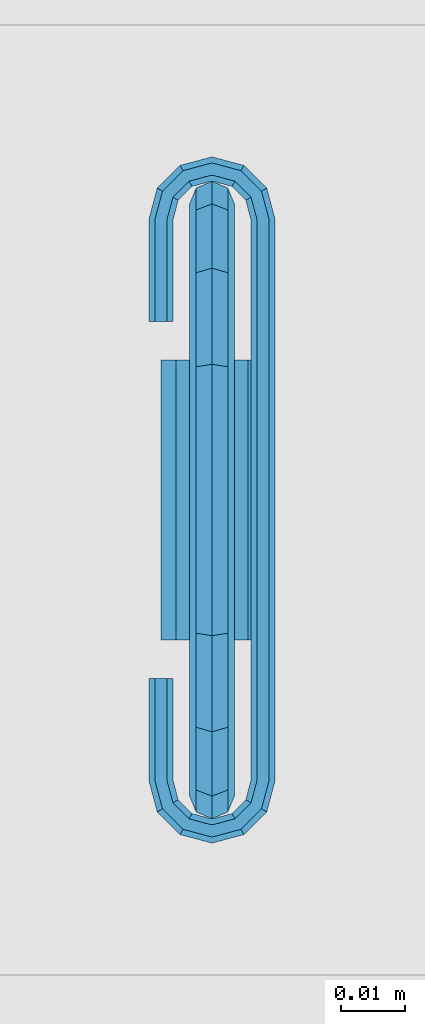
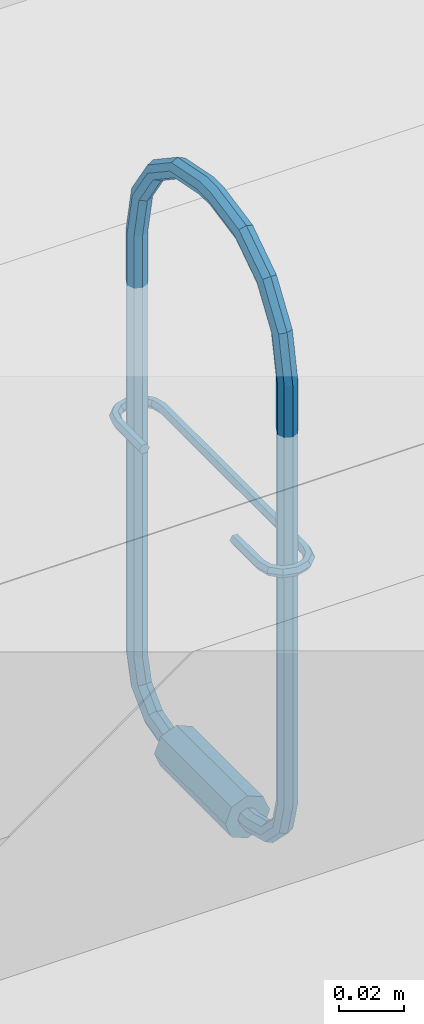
# One storey, part 173 of 230: 1 beam.
"""IFC4X3_ADD2 building model written with IfcOpenShell, lengths in millimetres."""

from ifc_helpers import new_model, si_unit, direction, origin_with_axes, place, context, subcontext, project, spatial, triangles, element, save


model = new_model("IFC4X3_ADD2")

# Units and contexts
model_context = context("Model", 3, precision=1e-05, world=origin_with_axes(), true_north=direction((0.0, 1.0)))
body_context = subcontext(model_context, "Body", "Model", "MODEL_VIEW")
ifc_project = project(units=[si_unit("LENGTHUNIT", "METRE", prefix="MILLI"), si_unit("AREAUNIT", "SQUARE_METRE"), si_unit("VOLUMEUNIT", "CUBIC_METRE"), si_unit("PLANEANGLEUNIT", "RADIAN"), si_unit("TIMEUNIT", "SECOND"), si_unit("MASSUNIT", "GRAM")], contexts=[model_context])

# Site, building, storey
site_placement = place(None, origin_with_axes())
site = spatial("IfcSite", under=ifc_project, at=site_placement, Name="Site", CompositionType="ELEMENT")
building_placement = place(site_placement, origin_with_axes())
building = spatial("IfcBuilding", under=site, at=building_placement, Name="IFC Building Story")
storey_placement = place(building_placement, origin_with_axes())
storey = spatial("IfcBuildingStorey", under=building, at=storey_placement, Name="ETAGE 00 (0)", Elevation=0.0)

# Beam
beam_placement = place(storey_placement, origin_with_axes())
element("IfcBeam", 1, at=beam_placement, inside=storey, Name="LU2", ObjectType="D7", context=body_context, shape_type="Tessellation", body=[
    triangles([(40583.66235351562, -1008.499997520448, 4036.025157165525), (40583.66235351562, -1012.00000190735, 4036.025157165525), (40581.1880859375, -1008.499997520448, 4034.999929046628), (40581.1880859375, -1012.00000190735, 4034.999929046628), (40584.69019775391, -1008.499997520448, 4038.500006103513), (40584.69019775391, -1012.00000190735, 4038.500006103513), (40583.66235351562, -1012.00000190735, 4040.974855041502), (40583.66235351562, -1008.499997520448, 4040.974855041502), (40581.1880859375, -1012.00000190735, 4042.000083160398), (40581.1880859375, -1008.499997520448, 4042.000083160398), (40578.71381835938, -1012.00000190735, 4040.974855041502), (40578.71381835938, -1008.499997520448, 4040.974855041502), (40577.690625, -1012.00000190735, 4038.500006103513), (40577.690625, -1008.499997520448, 4038.500006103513), (40578.71381835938, -1008.499997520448, 4036.025157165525), (40578.71381835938, -1012.00000190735, 4036.025157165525), (40581.1880859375, -996.2499458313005, 4038.282286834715), (40578.71381835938, -996.7625598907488, 4039.170023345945), (40581.1880859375, -987.282324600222, 4047.250053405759), (40578.71381835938, -988.1701337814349, 4047.762522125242), (40583.66235351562, -988.1701337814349, 4047.762522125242), (40583.66235351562, -996.7625598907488, 4039.170023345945), (40584.69019775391, -990.3134622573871, 4048.999946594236), (40584.69019775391, -997.9999843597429, 4041.313497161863), (40583.66235351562, -999.237408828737, 4043.456680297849), (40583.66235351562, -992.4567180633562, 4050.237371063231), (40581.1880859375, -999.7499502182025, 4044.34441680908), (40581.1880859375, -993.3445272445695, 4050.750130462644), (40578.71381835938, -992.4567180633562, 4050.237371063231), (40578.71381835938, -999.237408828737, 4043.456680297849), (40577.690625, -990.3134622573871, 4048.999946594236), (40577.690625, -997.9999843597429, 4041.313497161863), (40578.71381835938, -985.025122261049, 4059.499887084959), (40577.690625, -987.499971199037, 4059.499887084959), (40581.1880859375, -983.9999668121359, 4059.499887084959), (40583.66235351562, -985.025122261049, 4059.499887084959), (40584.69019775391, -987.499971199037, 4059.499887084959), (40583.66235351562, -989.9748201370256, 4059.499887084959), (40581.1880859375, -990.9999755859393, 4059.499887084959), (40578.71381835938, -989.9748201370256, 4059.499887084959), (40578.71381835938, -989.9748201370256, 4218.50006561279), (40577.690625, -987.499971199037, 4218.50006561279), (40578.71381835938, -993.0596609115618, 4234.008421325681), (40577.690625, -990.7731725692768, 4234.955456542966), (40578.71381835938, -1001.844371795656, 4247.155583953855), (40577.690625, -1000.094405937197, 4248.905477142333), (40578.71381835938, -998.3443674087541, 4250.65566101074), (40578.71381835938, -988.4866842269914, 4235.902491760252), (40581.1880859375, -997.6194843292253, 4251.38032608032), (40581.1880859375, -987.5395763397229, 4236.294909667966), (40583.66235351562, -998.3443674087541, 4250.65566101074), (40583.66235351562, -988.4866842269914, 4235.902491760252), (40584.69019775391, -1000.094405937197, 4248.905477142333), (40584.69019775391, -990.7731725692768, 4234.955456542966), (40583.66235351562, -993.0596609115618, 4234.008421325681), (40583.66235351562, -1001.844371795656, 4247.155583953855), (40581.1880859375, -994.0067687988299, 4233.616003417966), (40581.1880859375, -1002.569254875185, 4246.430628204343), (40581.1880859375, -1015.383952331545, 4254.993186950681), (40578.71381835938, -1014.991679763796, 4255.940222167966), (40577.690625, -1014.044571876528, 4258.226710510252), (40578.71381835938, -1013.097536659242, 4260.513198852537), (40581.1880859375, -1012.705191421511, 4261.460524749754), (40583.66235351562, -1013.097536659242, 4260.513198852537), (40584.69019775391, -1014.044571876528, 4258.226710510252), (40583.66235351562, -1014.991679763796, 4255.940222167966), (40583.66235351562, -1030.499962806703, 4259.025208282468), (40581.1880859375, -1030.499962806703, 4257.999980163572), (40578.71381835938, -1030.499962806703, 4259.025208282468), (40577.690625, -1030.499962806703, 4261.500057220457), (40578.71381835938, -1030.499962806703, 4263.974906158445), (40581.1880859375, -1030.499962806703, 4265.000134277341), (40583.66235351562, -1030.499962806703, 4263.974906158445), (40584.69019775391, -1030.499962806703, 4261.500057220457), (40584.69019775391, -1037.499971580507, 4261.500057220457), (40583.66235351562, -1037.499971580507, 4259.025208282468), (40584.69019775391, -1053.955362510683, 4258.226710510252), (40583.66235351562, -1053.008254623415, 4255.940222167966), (40584.69019775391, -1067.905601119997, 4248.905477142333), (40583.66235351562, -1066.155562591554, 4247.155583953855), (40581.1880859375, -1052.615982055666, 4254.993186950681), (40581.1880859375, -1065.430679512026, 4246.430628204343), (40578.71381835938, -1066.155562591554, 4247.155583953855), (40578.71381835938, -1053.008254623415, 4255.940222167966), (40577.690625, -1067.905601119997, 4248.905477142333), (40577.690625, -1053.955362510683, 4258.226710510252), (40578.71381835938, -1069.655566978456, 4250.65566101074), (40578.71381835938, -1054.902470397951, 4260.513198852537), (40581.1880859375, -1070.380450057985, 4251.38032608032), (40581.1880859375, -1055.2947429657, 4261.460524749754), (40583.66235351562, -1069.655566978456, 4250.65566101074), (40583.66235351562, -1054.902470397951, 4260.513198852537), (40584.69019775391, -1077.226834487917, 4234.955456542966), (40583.66235351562, -1079.513322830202, 4235.902491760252), (40583.66235351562, -1074.940346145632, 4234.008421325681), (40581.1880859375, -1073.993238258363, 4233.616003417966), (40578.71381835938, -1074.940346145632, 4234.008421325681), (40577.690625, -1077.226834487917, 4234.955456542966), (40578.71381835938, -1079.513322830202, 4235.902491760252), (40581.1880859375, -1080.460358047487, 4236.294909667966), (40583.66235351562, -1082.974884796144, 4218.50006561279), (40581.1880859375, -1083.999967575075, 4218.50006561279), (40584.69019775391, -1080.499963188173, 4218.50006561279), (40583.66235351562, -1078.025114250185, 4218.50006561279), (40581.1880859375, -1076.999958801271, 4218.50006561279), (40578.71381835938, -1078.025114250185, 4218.50006561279), (40577.690625, -1080.499963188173, 4218.50006561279), (40578.71381835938, -1082.974884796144, 4218.50006561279), (40581.1880859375, -1083.999967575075, 4059.499887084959), (40578.71381835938, -1082.974884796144, 4059.499887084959), (40581.1880859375, -1080.717609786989, 4047.250053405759), (40578.71381835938, -1079.829800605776, 4047.762522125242), (40581.1880859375, -1071.74998855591, 4038.282286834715), (40578.71381835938, -1071.237447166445, 4039.170023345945), (40583.66235351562, -1071.237447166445, 4039.170023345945), (40583.66235351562, -1079.829800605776, 4047.762522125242), (40584.69019775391, -1069.999950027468, 4041.313497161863), (40584.69019775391, -1077.686544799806, 4048.999946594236), (40583.66235351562, -1075.543216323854, 4050.237371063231), (40583.66235351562, -1068.762525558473, 4043.456680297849), (40581.1880859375, -1074.655407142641, 4050.750130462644), (40581.1880859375, -1068.249984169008, 4044.34441680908), (40578.71381835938, -1068.762525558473, 4043.456680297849), (40578.71381835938, -1075.543216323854, 4050.237371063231), (40577.690625, -1069.999950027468, 4041.313497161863), (40577.690625, -1077.686544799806, 4048.999946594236), (40578.71381835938, -1059.500009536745, 4036.025157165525), (40577.690625, -1059.500009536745, 4038.500006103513), (40581.1880859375, -1059.500009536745, 4034.999929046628), (40583.66235351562, -1059.500009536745, 4036.025157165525), (40584.69019775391, -1059.500009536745, 4038.500006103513), (40583.66235351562, -1059.500009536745, 4040.974855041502), (40581.1880859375, -1059.500009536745, 4042.000083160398), (40578.71381835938, -1059.500009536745, 4040.974855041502), (40578.71381835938, -1056.000005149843, 4040.974855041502), (40577.690625, -1056.000005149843, 4038.500006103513), (40581.1880859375, -1056.000005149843, 4042.000083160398), (40583.66235351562, -1056.000005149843, 4040.974855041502), (40584.69019775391, -1056.000005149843, 4038.500006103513), (40583.66235351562, -1056.000005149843, 4036.025157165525), (40581.1880859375, -1056.000005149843, 4034.999929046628), (40578.71381835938, -1056.000005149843, 4036.025157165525), (40589.18759765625, -1056.000005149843, 4038.500006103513), (40581.1880859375, -1056.000005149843, 4046.500099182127), (40575.5326171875, -1056.000005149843, 4044.156928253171), (40573.18857421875, -1056.000005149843, 4038.500006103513), (40586.8435546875, -1056.000005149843, 4044.156928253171), (40575.5326171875, -1056.000005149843, 4032.843083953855), (40581.1880859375, -1056.000005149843, 4030.4999130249), (40586.8435546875, -1056.000005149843, 4032.843083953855), (40586.8435546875, -1012.00000190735, 4032.843083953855), (40581.1880859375, -1012.00000190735, 4030.4999130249), (40589.18759765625, -1012.00000190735, 4038.500006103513), (40586.8435546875, -1012.00000190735, 4044.156928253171), (40581.1880859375, -1012.00000190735, 4046.500099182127), (40575.5326171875, -1012.00000190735, 4044.156928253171), (40573.18857421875, -1012.00000190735, 4038.500006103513), (40575.5326171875, -1012.00000190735, 4032.843083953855), (40577.690625, -1080.499963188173, 4059.499887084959), (40578.71381835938, -1078.025114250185, 4059.499887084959), (40581.1880859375, -1076.999958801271, 4059.499887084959), (40583.66235351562, -1078.025114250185, 4059.499887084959), (40584.69019775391, -1080.499963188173, 4059.499887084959), (40583.66235351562, -1082.974884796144, 4059.499887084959), (40583.66235351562, -1037.499971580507, 4263.974906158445), (40581.1880859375, -1037.499971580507, 4265.000134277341), (40578.71381835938, -1037.499971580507, 4263.974906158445), (40577.690625, -1037.499971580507, 4261.500057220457), (40578.71381835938, -1037.499971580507, 4259.025208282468), (40581.1880859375, -1037.499971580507, 4257.999980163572), (40581.1880859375, -990.9999755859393, 4218.50006561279), (40583.66235351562, -989.9748201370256, 4218.50006561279), (40584.69019775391, -987.499971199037, 4218.50006561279), (40583.66235351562, -985.025122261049, 4218.50006561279), (40581.1880859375, -983.9999668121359, 4218.50006561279), (40578.71381835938, -985.025122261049, 4218.50006561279), (40575.0907836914, -989.9400112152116, 4149.999886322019), (40575.0907836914, -1006.000004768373, 4149.999886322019), (40574.13735351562, -989.9400112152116, 4148.354637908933), (40574.13735351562, -1006.000004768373, 4148.354637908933), (40575.88608398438, -986.969989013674, 4149.999886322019), (40575.06287841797, -986.4950180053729, 4148.354637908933), (40577.58365478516, -983.973078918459, 4148.354637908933), (40578.05804443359, -984.7957757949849, 4149.999886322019), (40577.58365478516, -983.973078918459, 4151.645425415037), (40575.06287841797, -986.4950180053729, 4151.645425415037), (40581.02995605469, -983.049952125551, 4151.645425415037), (40581.02995605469, -981.1499954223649, 4151.645425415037), (40576.63487548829, -982.3276124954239, 4151.645425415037), (40572.23979492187, -1078.059995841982, 4151.645425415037), (40575.06287841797, -1081.504989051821, 4151.645425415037), (40574.13735351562, -1078.059995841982, 4151.645425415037), (40572.23979492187, -1062.00000228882, 4151.645425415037), (40573.41646728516, -1082.455003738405, 4151.645425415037), (40574.13735351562, -1062.00000228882, 4151.645425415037), (40576.63487548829, -1085.672321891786, 4151.645425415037), (40581.02995605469, -1084.949982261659, 4151.645425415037), (40577.58365478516, -1084.026928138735, 4151.645425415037), (40581.02995605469, -1086.850011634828, 4151.645425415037), (40572.23979492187, -989.9400112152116, 4151.645425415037), (40573.41646728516, -985.545003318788, 4151.645425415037), (40572.23979492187, -1006.000004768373, 4151.645425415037), (40574.13735351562, -989.9400112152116, 4151.645425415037), (40574.13735351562, -1006.000004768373, 4151.645425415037), (40584.79251708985, -1084.026928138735, 4151.645425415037), (40585.74594726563, -1085.672321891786, 4151.645425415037), (40588.95970458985, -1082.455003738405, 4151.645425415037), (40581.35086669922, -1086.850011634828, 4151.645425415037), (40581.35086669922, -1084.949982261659, 4151.645425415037), (40587.31794433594, -1081.504989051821, 4151.645425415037), (40590.14102783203, -1078.059995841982, 4151.645425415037), (40588.23881835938, -1078.059995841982, 4151.645425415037), (40588.23881835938, -989.9400112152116, 4151.645425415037), (40585.74594726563, -982.3276124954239, 4151.645425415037), (40584.79251708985, -983.973078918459, 4151.645425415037), (40588.95970458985, -985.545003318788, 4151.645425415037), (40581.35086669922, -981.1499954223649, 4151.645425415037), (40581.35086669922, -983.049952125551, 4151.645425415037), (40590.14102783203, -989.9400112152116, 4151.645425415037), (40587.31794433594, -986.4950180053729, 4151.645425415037), (40572.23979492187, -1062.00000228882, 4148.354637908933), (40574.13735351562, -1062.00000228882, 4148.354637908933), (40575.0907836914, -1062.00000228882, 4149.999886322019), (40571.291015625, -1062.00000228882, 4149.999886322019), (40575.0907836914, -1078.059995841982, 4149.999886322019), (40574.13735351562, -1078.059995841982, 4148.354637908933), (40576.63487548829, -1085.672321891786, 4148.354637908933), (40581.02995605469, -1084.949982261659, 4148.354637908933), (40581.02995605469, -1086.850011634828, 4148.354637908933), (40572.23979492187, -989.9400112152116, 4148.354637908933), (40572.23979492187, -1006.000004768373, 4148.354637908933), (40573.41646728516, -985.545003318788, 4148.354637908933), (40576.63487548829, -982.3276124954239, 4148.354637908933), (40581.02995605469, -983.049952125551, 4148.354637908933), (40581.02995605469, -981.1499954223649, 4148.354637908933), (40572.23979492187, -1078.059995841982, 4148.354637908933), (40575.06287841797, -1081.504989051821, 4148.354637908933), (40573.41646728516, -1082.455003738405, 4148.354637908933), (40577.58365478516, -1084.026928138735, 4148.354637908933), (40584.79251708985, -983.973078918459, 4148.354637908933), (40585.74594726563, -982.3276124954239, 4148.354637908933), (40588.95970458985, -985.545003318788, 4148.354637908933), (40581.35086669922, -981.1499954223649, 4148.354637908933), (40581.35086669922, -983.049952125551, 4148.354637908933), (40587.31794433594, -986.4950180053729, 4148.354637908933), (40590.14102783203, -989.9400112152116, 4148.354637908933), (40588.23881835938, -989.9400112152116, 4148.354637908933), (40588.23881835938, -1078.059995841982, 4148.354637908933), (40585.74594726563, -1085.672321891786, 4148.354637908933), (40584.79251708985, -1084.026928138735, 4148.354637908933), (40588.95970458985, -1082.455003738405, 4148.354637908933), (40581.35086669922, -1086.850011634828, 4148.354637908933), (40581.35086669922, -1084.949982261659, 4148.354637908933), (40590.14102783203, -1078.059995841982, 4148.354637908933), (40587.31794433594, -1081.504989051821, 4148.354637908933), (40571.291015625, -1078.059995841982, 4149.999886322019), (40572.59326171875, -1082.929974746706, 4149.999886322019), (40576.16048583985, -1086.495091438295, 4149.999886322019), (40581.02995605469, -1087.79995365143, 4149.999886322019), (40581.35086669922, -1087.79995365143, 4149.999886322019), (40586.22033691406, -1086.495091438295, 4149.999886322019), (40589.78291015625, -1082.929974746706, 4149.999886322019), (40591.08980712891, -1078.059995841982, 4149.999886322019), (40591.08980712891, -989.9400112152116, 4149.999886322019), (40589.78291015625, -985.0699596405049, 4149.999886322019), (40586.22033691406, -981.5049156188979, 4149.999886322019), (40581.35086669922, -980.199980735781, 4149.999886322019), (40581.02995605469, -980.199980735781, 4149.999886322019), (40576.16048583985, -981.5049156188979, 4149.999886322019), (40572.59326171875, -985.0699596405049, 4149.999886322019), (40571.291015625, -989.9400112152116, 4149.999886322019), (40571.291015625, -1006.000004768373, 4149.999886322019), (40581.02995605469, -983.9999668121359, 4149.999886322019), (40581.35086669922, -983.9999668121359, 4149.999886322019), (40584.31812744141, -984.7957757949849, 4149.999886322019), (40586.49473876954, -986.969989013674, 4149.999886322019), (40587.2900390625, -989.9400112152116, 4149.999886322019), (40587.2900390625, -1078.059995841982, 4149.999886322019), (40586.49473876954, -1081.03001804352, 4149.999886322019), (40584.31812744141, -1083.204158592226, 4149.999886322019), (40581.35086669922, -1083.999967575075, 4149.999886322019), (40581.02995605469, -1083.999967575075, 4149.999886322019), (40578.05804443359, -1083.204158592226, 4149.999886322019), (40575.88608398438, -1081.03001804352, 4149.999886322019)], [[1, 2, 3], [4, 3, 2], [5, 6, 1], [2, 1, 6], [6, 5, 7], [8, 7, 5], [7, 8, 9], [10, 9, 8], [9, 10, 11], [12, 11, 10], [11, 12, 13], [14, 13, 12], [15, 16, 14], [13, 14, 16], [3, 4, 15], [16, 15, 4], [17, 3, 18], [15, 18, 3], [19, 17, 20], [18, 20, 17], [21, 22, 17], [17, 19, 21], [23, 24, 22], [22, 21, 23], [24, 23, 25], [26, 25, 23], [25, 26, 27], [28, 27, 26], [27, 28, 29], [29, 30, 27], [30, 29, 31], [31, 32, 30], [20, 18, 31], [32, 31, 18], [33, 20, 34], [31, 34, 20], [35, 19, 33], [20, 33, 19], [36, 21, 19], [19, 35, 36], [37, 23, 21], [21, 36, 37], [23, 37, 26], [38, 26, 37], [26, 38, 28], [39, 28, 38], [28, 39, 40], [40, 29, 28], [29, 40, 34], [34, 31, 29], [40, 41, 42], [42, 34, 40], [41, 43, 44], [44, 42, 41], [43, 45, 46], [46, 44, 43], [47, 48, 46], [44, 46, 48], [49, 50, 47], [48, 47, 50], [51, 52, 50], [50, 49, 51], [53, 54, 52], [52, 51, 53], [54, 53, 55], [56, 55, 53], [55, 56, 57], [58, 57, 56], [57, 58, 45], [45, 43, 57], [58, 59, 60], [60, 45, 58], [45, 60, 61], [61, 46, 45], [62, 47, 61], [46, 61, 47], [63, 49, 62], [47, 62, 49], [64, 51, 49], [49, 63, 64], [65, 53, 51], [51, 64, 65], [53, 65, 56], [66, 56, 65], [56, 66, 58], [59, 58, 66], [66, 67, 59], [68, 59, 67], [59, 68, 69], [69, 60, 59], [60, 69, 70], [70, 61, 60], [71, 62, 70], [61, 70, 62], [72, 63, 71], [62, 71, 63], [73, 64, 63], [63, 72, 73], [74, 65, 64], [64, 73, 74], [65, 74, 66], [67, 66, 74], [74, 75, 67], [76, 67, 75], [75, 77, 76], [78, 76, 77], [77, 79, 78], [80, 78, 79], [78, 80, 81], [82, 81, 80], [81, 82, 83], [83, 84, 81], [84, 83, 85], [85, 86, 84], [87, 88, 85], [86, 85, 88], [89, 90, 87], [88, 87, 90], [91, 92, 90], [90, 89, 91], [79, 77, 92], [92, 91, 79], [93, 79, 91], [91, 94, 93], [79, 93, 80], [95, 80, 93], [80, 95, 82], [96, 82, 95], [82, 96, 97], [97, 83, 82], [83, 97, 98], [98, 85, 83], [99, 87, 98], [85, 98, 87], [100, 89, 99], [87, 99, 89], [94, 91, 89], [89, 100, 94], [101, 94, 100], [100, 102, 101], [103, 93, 94], [94, 101, 103], [93, 103, 95], [104, 95, 103], [95, 104, 96], [105, 96, 104], [96, 105, 106], [106, 97, 96], [97, 106, 107], [107, 98, 97], [108, 99, 107], [98, 107, 99], [102, 100, 108], [99, 108, 100], [109, 102, 110], [108, 110, 102], [111, 109, 112], [110, 112, 109], [113, 111, 114], [112, 114, 111], [115, 116, 111], [111, 113, 115], [117, 118, 116], [116, 115, 117], [118, 117, 119], [120, 119, 117], [119, 120, 121], [122, 121, 120], [121, 122, 123], [123, 124, 121], [124, 123, 125], [125, 126, 124], [114, 112, 125], [126, 125, 112], [127, 114, 128], [125, 128, 114], [129, 113, 127], [114, 127, 113], [130, 115, 113], [113, 129, 130], [131, 117, 115], [115, 130, 131], [117, 131, 120], [132, 120, 131], [120, 132, 122], [133, 122, 132], [122, 133, 134], [134, 123, 122], [123, 134, 128], [128, 125, 123], [134, 135, 136], [136, 128, 134], [133, 137, 134], [135, 134, 137], [132, 138, 137], [137, 133, 132], [131, 139, 132], [138, 132, 139], [139, 131, 130], [130, 140, 139], [140, 130, 141], [129, 141, 130], [141, 129, 127], [127, 142, 141], [142, 127, 136], [128, 136, 127], [138, 139, 143], [135, 137, 144], [144, 145, 135], [146, 136, 135], [146, 135, 145], [147, 137, 138], [137, 147, 144], [138, 143, 147], [148, 136, 146], [142, 149, 141], [142, 136, 148], [148, 149, 142], [150, 143, 139], [139, 140, 150], [141, 150, 140], [150, 141, 149], [151, 150, 152], [149, 152, 150], [153, 143, 151], [150, 151, 143], [143, 153, 147], [154, 147, 153], [147, 154, 144], [155, 144, 154], [144, 155, 145], [156, 145, 155], [145, 156, 146], [157, 146, 156], [158, 148, 157], [146, 157, 148], [152, 149, 158], [148, 158, 149], [11, 13, 157], [7, 9, 155], [155, 154, 7], [153, 6, 7], [153, 7, 154], [156, 9, 11], [9, 156, 155], [11, 157, 156], [151, 6, 153], [2, 152, 4], [2, 6, 151], [151, 152, 2], [158, 157, 13], [13, 16, 158], [4, 158, 16], [158, 4, 152], [112, 110, 126], [159, 126, 110], [160, 124, 126], [126, 159, 160], [161, 121, 124], [124, 160, 161], [162, 119, 161], [121, 161, 119], [163, 118, 162], [119, 162, 118], [118, 163, 164], [164, 116, 118], [116, 164, 109], [109, 111, 116], [164, 101, 102], [102, 109, 164], [163, 103, 164], [101, 164, 103], [103, 163, 104], [162, 104, 163], [104, 162, 105], [161, 105, 162], [105, 161, 160], [160, 106, 105], [106, 160, 159], [159, 107, 106], [110, 108, 107], [107, 159, 110], [77, 75, 165], [165, 92, 77], [92, 165, 166], [166, 90, 92], [90, 166, 88], [167, 88, 166], [88, 167, 86], [168, 86, 167], [169, 84, 86], [86, 168, 169], [170, 81, 84], [84, 169, 170], [76, 78, 170], [81, 170, 78], [67, 76, 68], [170, 68, 76], [68, 170, 169], [169, 69, 68], [69, 169, 168], [168, 70, 69], [167, 71, 70], [70, 168, 167], [166, 72, 71], [71, 167, 166], [165, 73, 166], [72, 166, 73], [75, 74, 165], [73, 165, 74], [171, 57, 43], [43, 41, 171], [172, 55, 171], [57, 171, 55], [173, 54, 172], [55, 172, 54], [54, 173, 174], [174, 52, 54], [52, 174, 175], [175, 50, 52], [50, 175, 48], [176, 48, 175], [48, 176, 44], [42, 44, 176], [176, 33, 34], [34, 42, 176], [175, 35, 176], [33, 176, 35], [174, 36, 35], [35, 175, 174], [173, 37, 174], [36, 174, 37], [37, 173, 38], [172, 38, 173], [38, 172, 39], [171, 39, 172], [39, 171, 41], [41, 40, 39], [18, 15, 32], [14, 32, 15], [12, 30, 32], [32, 14, 12], [10, 27, 30], [30, 12, 10], [8, 25, 10], [27, 10, 25], [5, 24, 8], [25, 8, 24], [24, 5, 1], [1, 22, 24], [22, 1, 3], [3, 17, 22], [177, 178, 179], [180, 179, 178], [181, 177, 179], [179, 182, 181], [183, 184, 181], [181, 182, 183], [184, 185, 181], [186, 181, 185], [187, 188, 189], [190, 191, 192], [190, 192, 193], [190, 194, 191], [195, 193, 192], [196, 197, 198], [198, 191, 194], [199, 197, 196], [196, 198, 194], [200, 186, 201], [202, 203, 200], [204, 203, 202], [200, 203, 186], [185, 189, 201], [201, 186, 185], [189, 185, 187], [205, 206, 207], [197, 199, 208], [208, 209, 197], [209, 206, 205], [206, 209, 208], [210, 207, 211], [207, 210, 205], [212, 211, 213], [211, 212, 210], [214, 215, 216], [217, 188, 187], [187, 218, 217], [218, 215, 214], [214, 217, 218], [213, 219, 220], [219, 213, 211], [220, 216, 215], [216, 220, 219], [195, 221, 193], [222, 195, 223], [193, 221, 224], [195, 222, 221], [223, 225, 226], [226, 222, 223], [227, 228, 229], [230, 182, 179], [230, 179, 231], [230, 232, 182], [180, 231, 179], [233, 234, 183], [183, 182, 232], [235, 234, 233], [233, 183, 232], [236, 237, 238], [221, 226, 236], [222, 226, 221], [236, 226, 237], [239, 227, 238], [238, 237, 239], [227, 239, 228], [240, 241, 242], [243, 234, 235], [243, 244, 234], [244, 243, 241], [240, 244, 241], [245, 242, 246], [242, 245, 240], [247, 246, 248], [246, 247, 245], [249, 250, 251], [252, 229, 228], [228, 253, 252], [253, 250, 249], [249, 252, 253], [248, 254, 255], [254, 248, 246], [255, 251, 250], [251, 255, 254], [221, 236, 256], [256, 224, 221], [190, 193, 256], [224, 256, 193], [257, 194, 256], [190, 256, 194], [238, 257, 256], [256, 236, 238], [227, 258, 238], [257, 238, 258], [258, 196, 194], [194, 257, 258], [259, 199, 196], [196, 258, 259], [260, 208, 259], [199, 259, 208], [261, 206, 260], [208, 260, 206], [249, 261, 260], [260, 252, 249], [252, 260, 259], [259, 229, 252], [229, 259, 227], [258, 227, 259], [251, 262, 261], [261, 249, 251], [262, 207, 261], [206, 261, 207], [263, 211, 207], [207, 262, 263], [263, 264, 211], [219, 211, 264], [219, 264, 216], [265, 216, 264], [264, 246, 242], [242, 265, 264], [264, 263, 254], [254, 246, 264], [254, 263, 251], [262, 251, 263], [265, 242, 266], [241, 266, 242], [216, 265, 266], [266, 214, 216], [214, 266, 267], [267, 217, 214], [217, 267, 268], [268, 188, 217], [188, 268, 189], [269, 189, 268], [268, 235, 233], [233, 269, 268], [267, 243, 268], [235, 268, 243], [266, 241, 267], [243, 267, 241], [269, 233, 232], [232, 270, 269], [189, 269, 201], [270, 201, 269], [201, 270, 271], [271, 200, 201], [202, 200, 272], [271, 272, 200], [202, 180, 204], [231, 202, 272], [204, 180, 178], [202, 231, 180], [230, 231, 271], [272, 271, 231], [270, 232, 271], [230, 271, 232], [178, 177, 203], [203, 204, 178], [177, 181, 203], [186, 203, 181], [234, 273, 184], [184, 183, 234], [273, 187, 184], [185, 184, 187], [274, 218, 273], [187, 273, 218], [275, 215, 218], [218, 274, 275], [276, 220, 215], [215, 275, 276], [213, 220, 276], [276, 277, 213], [212, 213, 277], [277, 278, 212], [210, 212, 279], [278, 279, 212], [210, 279, 205], [280, 205, 279], [205, 280, 209], [281, 209, 280], [209, 281, 197], [282, 197, 281], [197, 282, 283], [283, 198, 197], [198, 283, 284], [284, 191, 198], [284, 225, 192], [192, 191, 284], [225, 223, 192], [195, 192, 223], [225, 284, 226], [237, 226, 284], [283, 239, 284], [237, 284, 239], [282, 228, 283], [239, 283, 228], [281, 253, 228], [228, 282, 281], [280, 250, 253], [253, 281, 280], [279, 255, 250], [250, 280, 279], [248, 255, 279], [279, 278, 248], [247, 248, 277], [278, 277, 248], [245, 247, 276], [277, 276, 247], [245, 276, 240], [275, 240, 276], [240, 275, 244], [274, 244, 275], [244, 274, 273], [273, 234, 244]]),
])

save(model, "model.ifc")
